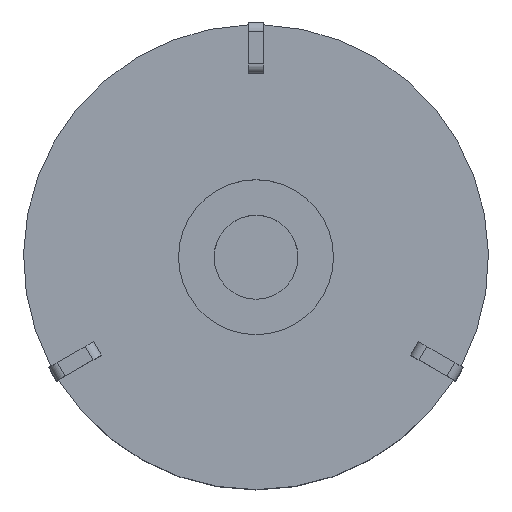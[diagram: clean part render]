
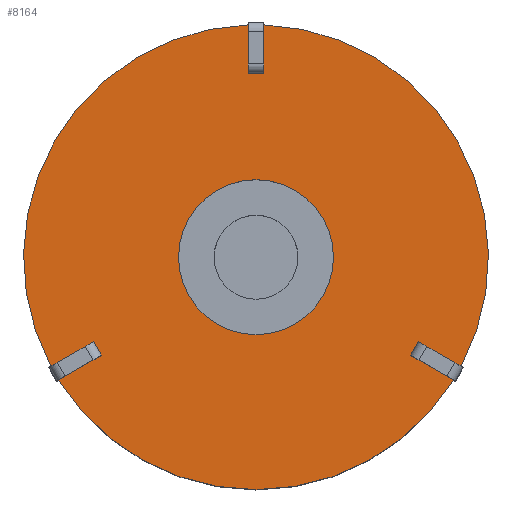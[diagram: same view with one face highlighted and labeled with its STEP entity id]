
A CAD part, top view. The second image highlights one B-rep face of the part: STEP entity #8164.
In plain terms, the highlighted planar face has unit normal (0, 0, 1) as drawn and (-1, 0, 0) by its records, which use the part's own axes.
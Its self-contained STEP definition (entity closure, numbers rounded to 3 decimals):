
#462=FACE_BOUND('',#1766,.T.);
#469=CIRCLE('',#8664,18.);
#470=CIRCLE('',#8665,18.);
#471=CIRCLE('',#8666,18.);
#472=CIRCLE('',#8667,6.);
#1307=FACE_OUTER_BOUND('',#1765,.T.);
#1765=EDGE_LOOP('',(#5468,#5469,#5470,#5471,#5472,#5473,#5474,#5475,#5476,
#5477,#5478,#5479));
#1766=EDGE_LOOP('',(#5480));
#2229=LINE('',#13067,#2732);
#2237=LINE('',#13084,#2740);
#2240=LINE('',#13088,#2743);
#2241=LINE('',#13093,#2744);
#2242=LINE('',#13095,#2745);
#2243=LINE('',#13097,#2746);
#2244=LINE('',#13101,#2747);
#2245=LINE('',#13103,#2748);
#2246=LINE('',#13105,#2749);
#2732=VECTOR('',#9966,10.);
#2740=VECTOR('',#9976,10.);
#2743=VECTOR('',#9981,10.);
#2744=VECTOR('',#9986,10.);
#2745=VECTOR('',#9987,10.);
#2746=VECTOR('',#9988,10.);
#2747=VECTOR('',#9991,10.);
#2748=VECTOR('',#9992,10.);
#2749=VECTOR('',#9993,10.);
#3235=VERTEX_POINT('',#13064);
#3236=VERTEX_POINT('',#13066);
#3243=VERTEX_POINT('',#13081);
#3244=VERTEX_POINT('',#13083);
#3245=VERTEX_POINT('',#13090);
#3246=VERTEX_POINT('',#13092);
#3247=VERTEX_POINT('',#13094);
#3248=VERTEX_POINT('',#13096);
#3249=VERTEX_POINT('',#13098);
#3250=VERTEX_POINT('',#13100);
#3251=VERTEX_POINT('',#13102);
#3252=VERTEX_POINT('',#13104);
#3253=VERTEX_POINT('',#13107);
#4121=EDGE_CURVE('',#3236,#3235,#2229,.T.);
#4129=EDGE_CURVE('',#3244,#3243,#2237,.T.);
#4132=EDGE_CURVE('',#3235,#3244,#2240,.T.);
#4133=EDGE_CURVE('',#3245,#3243,#469,.T.);
#4134=EDGE_CURVE('',#3245,#3246,#2241,.T.);
#4135=EDGE_CURVE('',#3246,#3247,#2242,.T.);
#4136=EDGE_CURVE('',#3247,#3248,#2243,.T.);
#4137=EDGE_CURVE('',#3249,#3248,#470,.T.);
#4138=EDGE_CURVE('',#3249,#3250,#2244,.T.);
#4139=EDGE_CURVE('',#3250,#3251,#2245,.T.);
#4140=EDGE_CURVE('',#3251,#3252,#2246,.T.);
#4141=EDGE_CURVE('',#3236,#3252,#471,.T.);
#4142=EDGE_CURVE('',#3253,#3253,#472,.T.);
#5468=ORIENTED_EDGE('',*,*,#4121,.T.);
#5469=ORIENTED_EDGE('',*,*,#4132,.T.);
#5470=ORIENTED_EDGE('',*,*,#4129,.T.);
#5471=ORIENTED_EDGE('',*,*,#4133,.F.);
#5472=ORIENTED_EDGE('',*,*,#4134,.T.);
#5473=ORIENTED_EDGE('',*,*,#4135,.T.);
#5474=ORIENTED_EDGE('',*,*,#4136,.T.);
#5475=ORIENTED_EDGE('',*,*,#4137,.F.);
#5476=ORIENTED_EDGE('',*,*,#4138,.T.);
#5477=ORIENTED_EDGE('',*,*,#4139,.T.);
#5478=ORIENTED_EDGE('',*,*,#4140,.T.);
#5479=ORIENTED_EDGE('',*,*,#4141,.F.);
#5480=ORIENTED_EDGE('',*,*,#4142,.T.);
#8121=PLANE('',#8663);
#8164=ADVANCED_FACE('',(#1307,#462),#8121,.T.);
#8663=AXIS2_PLACEMENT_3D('',#13089,#9982,#9983);
#8664=AXIS2_PLACEMENT_3D('',#13091,#9984,#9985);
#8665=AXIS2_PLACEMENT_3D('',#13099,#9989,#9990);
#8666=AXIS2_PLACEMENT_3D('',#13106,#9994,#9995);
#8667=AXIS2_PLACEMENT_3D('',#13108,#9996,#9997);
#9966=DIRECTION('',(0.,0.5,0.866));
#9976=DIRECTION('',(0.,-0.5,-0.866));
#9981=DIRECTION('',(0.,-0.866,0.5));
#9982=DIRECTION('center_axis',(-1.,0.,0.));
#9983=DIRECTION('ref_axis',(0.,0.,1.));
#9984=DIRECTION('center_axis',(1.,0.,0.));
#9985=DIRECTION('ref_axis',(0.,0.,-1.));
#9986=DIRECTION('',(0.,0.5,-0.866));
#9987=DIRECTION('',(0.,0.866,0.5));
#9988=DIRECTION('',(0.,-0.5,0.866));
#9989=DIRECTION('center_axis',(1.,0.,0.));
#9990=DIRECTION('ref_axis',(0.,0.,-1.));
#9991=DIRECTION('',(0.,-1.,0.));
#9992=DIRECTION('',(0.,0.,-1.));
#9993=DIRECTION('',(0.,1.,0.));
#9994=DIRECTION('center_axis',(1.,0.,0.));
#9995=DIRECTION('ref_axis',(0.,0.,-1.));
#9996=DIRECTION('center_axis',(1.,0.,0.));
#9997=DIRECTION('ref_axis',(0.,0.,-1.));
#13064=CARTESIAN_POINT('',(-16.,-6.58,-12.598));
#13066=CARTESIAN_POINT('',(-16.,-8.475,-15.88));
#13067=CARTESIAN_POINT('',(-16.,-1.728,-4.193));
#13081=CARTESIAN_POINT('',(-16.,-9.515,-15.28));
#13083=CARTESIAN_POINT('',(-16.,-7.62,-11.998));
#13084=CARTESIAN_POINT('',(-16.,-1.82,-1.952));
#13088=CARTESIAN_POINT('',(-16.,-0.09,-16.345));
#13089=CARTESIAN_POINT('Origin',(-16.,18.,0.));
#13090=CARTESIAN_POINT('',(-16.,-9.515,15.28));
#13091=CARTESIAN_POINT('Origin',(-16.,0.,0.));
#13092=CARTESIAN_POINT('',(-16.,-7.62,11.998));
#13093=CARTESIAN_POINT('',(-16.,-2.767,3.593));
#13094=CARTESIAN_POINT('',(-16.,-6.58,12.598));
#13095=CARTESIAN_POINT('',(-16.,-0.61,16.045));
#13096=CARTESIAN_POINT('',(-16.,-8.475,15.88));
#13097=CARTESIAN_POINT('',(-16.,-0.78,2.552));
#13098=CARTESIAN_POINT('',(-16.,17.99,0.6));
#13099=CARTESIAN_POINT('Origin',(-16.,0.,0.));
#13100=CARTESIAN_POINT('',(-16.,14.2,0.6));
#13101=CARTESIAN_POINT('',(-16.,17.995,0.6));
#13102=CARTESIAN_POINT('',(-16.,14.2,-0.6));
#13103=CARTESIAN_POINT('',(-16.,14.2,0.3));
#13104=CARTESIAN_POINT('',(-16.,17.99,-0.6));
#13105=CARTESIAN_POINT('',(-16.,16.1,-0.6));
#13106=CARTESIAN_POINT('Origin',(-16.,0.,0.));
#13107=CARTESIAN_POINT('',(-16.,-6.,0.));
#13108=CARTESIAN_POINT('Origin',(-16.,0.,0.));
